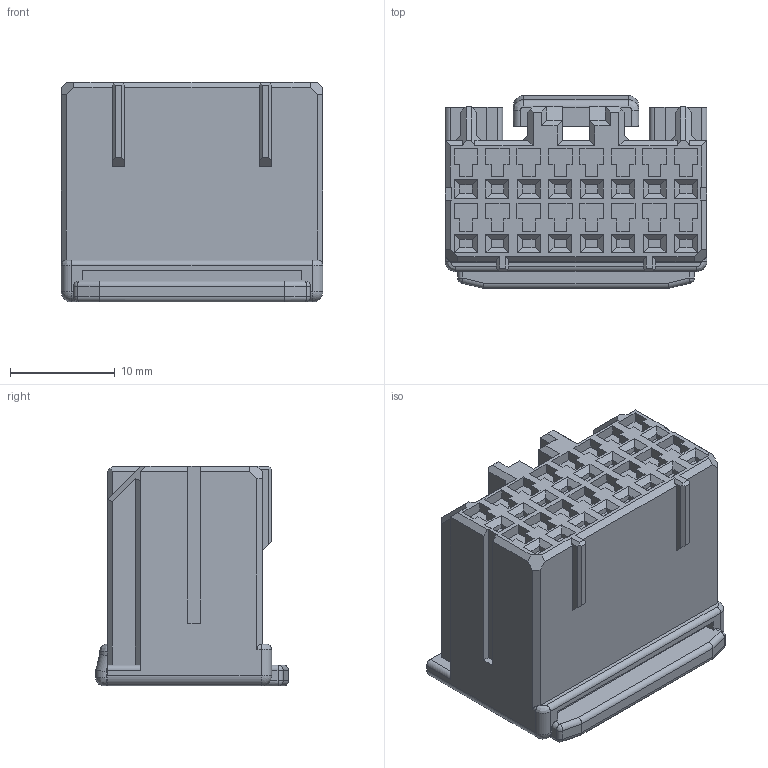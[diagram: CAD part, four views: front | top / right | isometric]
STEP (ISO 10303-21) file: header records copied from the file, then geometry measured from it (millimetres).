
FILE_DESCRIPTION((''),'2;1');
FILE_NAME('C-0917981-01-3','2007-09-06T',('workeradm'),('Tyco Electronics Corporation'),'PRO/ENGINEER BY PARAMETRIC TECHNOLOGY CORPORATION, 2005450','PRO/ENGINEER BY PARAMETRIC TECHNOLOGY CORPORATION, 2005450','');
FILE_SCHEMA(('CONFIG_CONTROL_DESIGN', 'GEOMETRIC_VALIDATION_PROPERTIES_MIM'));
Length unit declared in the file: millimetre
Products named in the file (1): C-0917981-01-3
Bounding box: 25 x 18.4 x 21 mm (x, y, z)
Volume: 6349.7 mm3; surface area: 3512.7 mm2
Topology: 1 solids, 1 shells, 902 faces, 2421 edges, 1572 vertices
Faces by surface type: plane 848, cylinder 42, bspline 6, sphere 6
Entity records: 27781 total; most frequent: CARTESIAN_POINT 5129, ORIENTED_EDGE 4842, DIRECTION 4259, EDGE_CURVE 2421, VECTOR 2327, LINE 2327, VERTEX_POINT 1572, AXIS2_PLACEMENT_3D 966
